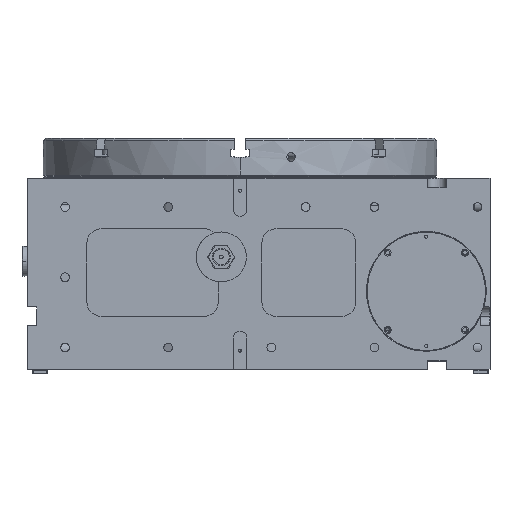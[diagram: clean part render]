
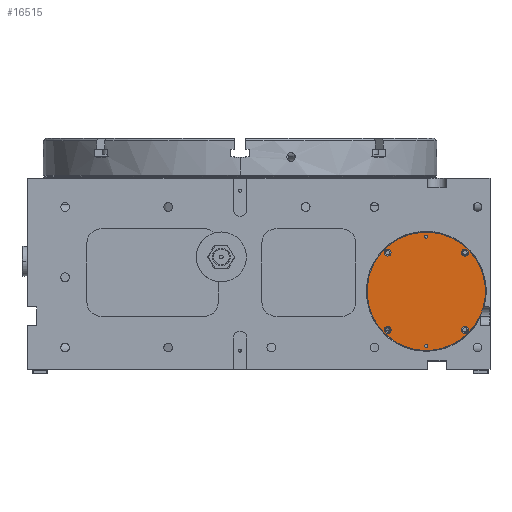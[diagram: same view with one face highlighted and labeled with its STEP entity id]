
A CAD part, front view. The second image highlights one B-rep face of the part: STEP entity #16515.
In plain terms, the highlighted planar face has unit normal (0, -1, 0).
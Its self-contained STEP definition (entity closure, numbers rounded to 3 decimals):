
#7 = VERTEX_POINT ( 'NONE', #22269 ) ;
#55 = CARTESIAN_POINT ( 'NONE',  ( 232.239, -399., 190.761 ) ) ;
#399 = CIRCLE ( 'NONE', #27295, 5.5 ) ;
#599 = VERTEX_POINT ( 'NONE', #27605 ) ;
#790 = CARTESIAN_POINT ( 'NONE',  ( 240.017, -399., 182.983 ) ) ;
#944 = DIRECTION ( 'NONE',  ( 0.707, 0., 0.707 ) ) ;
#1582 = CARTESIAN_POINT ( 'NONE',  ( 236.128, -399., 186.872 ) ) ;
#1607 = EDGE_CURVE ( 'NONE', #1667, #21554, #3862, .T. ) ;
#1667 = VERTEX_POINT ( 'NONE', #55 ) ;
#1748 = AXIS2_PLACEMENT_3D ( 'NONE', #2646, #30628, #30953 ) ;
#2611 = VERTEX_POINT ( 'NONE', #12391 ) ;
#2646 = CARTESIAN_POINT ( 'NONE',  ( 359.872, -399., 186.872 ) ) ;
#2670 = VERTEX_POINT ( 'NONE', #14752 ) ;
#2965 = DIRECTION ( 'NONE',  ( 0., -1., 0. ) ) ;
#3174 = CARTESIAN_POINT ( 'NONE',  ( 359.872, -399., 63.128 ) ) ;
#3281 = CIRCLE ( 'NONE', #19988, 5.5 ) ;
#3862 = CIRCLE ( 'NONE', #28081, 5.5 ) ;
#4068 = CARTESIAN_POINT ( 'NONE',  ( 231.002, -399., 191.998 ) ) ;
#4385 = EDGE_LOOP ( 'NONE', ( #18349, #13337 ) ) ;
#4401 = FACE_BOUND ( 'NONE', #12310, .T. ) ;
#4606 = CARTESIAN_POINT ( 'NONE',  ( 364.998, -399., 58.002 ) ) ;
#4866 = ORIENTED_EDGE ( 'NONE', *, *, #8707, .F. ) ;
#5194 = EDGE_CURVE ( 'NONE', #5712, #18607, #22804, .T. ) ;
#5606 = AXIS2_PLACEMENT_3D ( 'NONE', #1582, #32884, #22618 ) ;
#5712 = VERTEX_POINT ( 'NONE', #7643 ) ;
#6367 = DIRECTION ( 'NONE',  ( 0., -1., 0. ) ) ;
#6582 = PLANE ( 'NONE',  #18686 ) ;
#6687 = CARTESIAN_POINT ( 'NONE',  ( 298., -399., 37.5 ) ) ;
#6702 = DIRECTION ( 'NONE',  ( 0., -1., 0. ) ) ;
#7643 = CARTESIAN_POINT ( 'NONE',  ( 296.232, -399., 214.268 ) ) ;
#7737 = EDGE_LOOP ( 'NONE', ( #8976, #23264 ) ) ;
#8047 = EDGE_CURVE ( 'NONE', #7, #2611, #10361, .T. ) ;
#8356 = DIRECTION ( 'NONE',  ( 0., -1., 0. ) ) ;
#8707 = EDGE_CURVE ( 'NONE', #2670, #13331, #29832, .T. ) ;
#8886 = DIRECTION ( 'NONE',  ( -0.707, 0., 0.707 ) ) ;
#8976 = ORIENTED_EDGE ( 'NONE', *, *, #17955, .F. ) ;
#9011 = DIRECTION ( 'NONE',  ( 0., -1., 0. ) ) ;
#9096 = CARTESIAN_POINT ( 'NONE',  ( 296.232, -399., 39.268 ) ) ;
#9398 = AXIS2_PLACEMENT_3D ( 'NONE', #10890, #2965, #944 ) ;
#9433 = EDGE_CURVE ( 'NONE', #9988, #599, #24496, .T. ) ;
#9632 = DIRECTION ( 'NONE',  ( 0.707, 0., -0.707 ) ) ;
#9857 = EDGE_CURVE ( 'NONE', #2611, #7, #14302, .T. ) ;
#9988 = VERTEX_POINT ( 'NONE', #22017 ) ;
#10021 = DIRECTION ( 'NONE',  ( 0.707, 0., -0.707 ) ) ;
#10361 = CIRCLE ( 'NONE', #1748, 5.5 ) ;
#10499 = VERTEX_POINT ( 'NONE', #12204 ) ;
#10644 = VERTEX_POINT ( 'NONE', #4606 ) ;
#10878 = AXIS2_PLACEMENT_3D ( 'NONE', #26482, #31540, #16209 ) ;
#10890 = CARTESIAN_POINT ( 'NONE',  ( 236.128, -399., 63.128 ) ) ;
#11074 = DIRECTION ( 'NONE',  ( -0.707, 0., -0.707 ) ) ;
#11212 = ORIENTED_EDGE ( 'NONE', *, *, #19173, .F. ) ;
#11293 = DIRECTION ( 'NONE',  ( -0.707, 0., 0.707 ) ) ;
#11931 = DIRECTION ( 'NONE',  ( 0.707, 0., -0.707 ) ) ;
#12204 = CARTESIAN_POINT ( 'NONE',  ( 299.768, -399., 35.732 ) ) ;
#12310 = EDGE_LOOP ( 'NONE', ( #25522, #11212 ) ) ;
#12391 = CARTESIAN_POINT ( 'NONE',  ( 355.983, -399., 182.983 ) ) ;
#12670 = EDGE_LOOP ( 'NONE', ( #15993, #30014 ) ) ;
#13331 = VERTEX_POINT ( 'NONE', #23353 ) ;
#13337 = ORIENTED_EDGE ( 'NONE', *, *, #5194, .F. ) ;
#13347 = ORIENTED_EDGE ( 'NONE', *, *, #9857, .F. ) ;
#14036 = ORIENTED_EDGE ( 'NONE', *, *, #8047, .F. ) ;
#14119 = DIRECTION ( 'NONE',  ( -0.707, 0., 0.707 ) ) ;
#14302 = CIRCLE ( 'NONE', #31498, 5.5 ) ;
#14681 = FACE_BOUND ( 'NONE', #4385, .T. ) ;
#14752 = CARTESIAN_POINT ( 'NONE',  ( 240.017, -399., 67.017 ) ) ;
#14934 = DIRECTION ( 'NONE',  ( 0., -1., 0. ) ) ;
#15012 = FACE_BOUND ( 'NONE', #12670, .T. ) ;
#15068 = DIRECTION ( 'NONE',  ( 0., -1., 0. ) ) ;
#15102 = AXIS2_PLACEMENT_3D ( 'NONE', #23287, #21272, #16206 ) ;
#15993 = ORIENTED_EDGE ( 'NONE', *, *, #9433, .F. ) ;
#16206 = DIRECTION ( 'NONE',  ( -0.707, 0., 0.707 ) ) ;
#16209 = DIRECTION ( 'NONE',  ( -0.707, 0., 0.707 ) ) ;
#16515 = ADVANCED_FACE ( 'NONE', ( #4401, #14681, #29672, #15012, #22433, #30343, #27817 ), #6582, .T. ) ;
#16934 = CIRCLE ( 'NONE', #5606, 5.5 ) ;
#17855 = ORIENTED_EDGE ( 'NONE', *, *, #33087, .F. ) ;
#17955 = EDGE_CURVE ( 'NONE', #19738, #10644, #28555, .T. ) ;
#18349 = ORIENTED_EDGE ( 'NONE', *, *, #18975, .F. ) ;
#18451 = EDGE_CURVE ( 'NONE', #10644, #19738, #26432, .T. ) ;
#18468 = AXIS2_PLACEMENT_3D ( 'NONE', #6687, #14934, #30118 ) ;
#18607 = VERTEX_POINT ( 'NONE', #19676 ) ;
#18686 = AXIS2_PLACEMENT_3D ( 'NONE', #4068, #32703, #9632 ) ;
#18975 = EDGE_CURVE ( 'NONE', #18607, #5712, #26446, .T. ) ;
#19040 = AXIS2_PLACEMENT_3D ( 'NONE', #32807, #6702, #11931 ) ;
#19173 = EDGE_CURVE ( 'NONE', #10499, #22884, #24872, .T. ) ;
#19676 = CARTESIAN_POINT ( 'NONE',  ( 299.768, -399., 210.732 ) ) ;
#19738 = VERTEX_POINT ( 'NONE', #29479 ) ;
#19988 = AXIS2_PLACEMENT_3D ( 'NONE', #30999, #25938, #11293 ) ;
#21272 = DIRECTION ( 'NONE',  ( 0., 1., 0. ) ) ;
#21554 = VERTEX_POINT ( 'NONE', #790 ) ;
#21607 = AXIS2_PLACEMENT_3D ( 'NONE', #21820, #9011, #27372 ) ;
#21820 = CARTESIAN_POINT ( 'NONE',  ( 298., -399., 212.5 ) ) ;
#22017 = CARTESIAN_POINT ( 'NONE',  ( 355.983, -399., 67.017 ) ) ;
#22269 = CARTESIAN_POINT ( 'NONE',  ( 363.761, -399., 190.761 ) ) ;
#22433 = FACE_BOUND ( 'NONE', #24431, .T. ) ;
#22618 = DIRECTION ( 'NONE',  ( 0.707, 0., -0.707 ) ) ;
#22779 = EDGE_LOOP ( 'NONE', ( #4866, #17855 ) ) ;
#22804 = CIRCLE ( 'NONE', #19040, 2.5 ) ;
#22884 = VERTEX_POINT ( 'NONE', #9096 ) ;
#22949 = ORIENTED_EDGE ( 'NONE', *, *, #1607, .F. ) ;
#22953 = CARTESIAN_POINT ( 'NONE',  ( 236.128, -399., 63.128 ) ) ;
#22980 = CARTESIAN_POINT ( 'NONE',  ( 236.128, -399., 186.872 ) ) ;
#23264 = ORIENTED_EDGE ( 'NONE', *, *, #18451, .F. ) ;
#23287 = CARTESIAN_POINT ( 'NONE',  ( 298., -399., 125. ) ) ;
#23353 = CARTESIAN_POINT ( 'NONE',  ( 232.239, -399., 59.239 ) ) ;
#23424 = AXIS2_PLACEMENT_3D ( 'NONE', #3174, #6367, #14119 ) ;
#24431 = EDGE_LOOP ( 'NONE', ( #13347, #14036 ) ) ;
#24452 = EDGE_CURVE ( 'NONE', #22884, #10499, #30834, .T. ) ;
#24496 = CIRCLE ( 'NONE', #23424, 5.5 ) ;
#24872 = CIRCLE ( 'NONE', #10878, 2.5 ) ;
#25306 = DIRECTION ( 'NONE',  ( 0.707, 0., 0.707 ) ) ;
#25522 = ORIENTED_EDGE ( 'NONE', *, *, #24452, .F. ) ;
#25938 = DIRECTION ( 'NONE',  ( 0., -1., 0. ) ) ;
#26432 = CIRCLE ( 'NONE', #30193, 94.75 ) ;
#26446 = CIRCLE ( 'NONE', #21607, 2.5 ) ;
#26482 = CARTESIAN_POINT ( 'NONE',  ( 298., -399., 37.5 ) ) ;
#27295 = AXIS2_PLACEMENT_3D ( 'NONE', #22953, #28007, #25306 ) ;
#27372 = DIRECTION ( 'NONE',  ( 0.707, 0., -0.707 ) ) ;
#27605 = CARTESIAN_POINT ( 'NONE',  ( 363.761, -399., 59.239 ) ) ;
#27807 = EDGE_LOOP ( 'NONE', ( #27967, #22949 ) ) ;
#27817 = FACE_OUTER_BOUND ( 'NONE', #7737, .T. ) ;
#27949 = EDGE_CURVE ( 'NONE', #21554, #1667, #16934, .T. ) ;
#27967 = ORIENTED_EDGE ( 'NONE', *, *, #27949, .F. ) ;
#28007 = DIRECTION ( 'NONE',  ( 0., -1., 0. ) ) ;
#28081 = AXIS2_PLACEMENT_3D ( 'NONE', #22980, #15068, #10021 ) ;
#28555 = CIRCLE ( 'NONE', #15102, 94.75 ) ;
#29269 = DIRECTION ( 'NONE',  ( 0., 1., 0. ) ) ;
#29417 = CARTESIAN_POINT ( 'NONE',  ( 359.872, -399., 186.872 ) ) ;
#29479 = CARTESIAN_POINT ( 'NONE',  ( 231.002, -399., 191.998 ) ) ;
#29672 = FACE_BOUND ( 'NONE', #22779, .T. ) ;
#29832 = CIRCLE ( 'NONE', #9398, 5.5 ) ;
#29851 = EDGE_CURVE ( 'NONE', #599, #9988, #3281, .T. ) ;
#30014 = ORIENTED_EDGE ( 'NONE', *, *, #29851, .F. ) ;
#30118 = DIRECTION ( 'NONE',  ( -0.707, 0., 0.707 ) ) ;
#30193 = AXIS2_PLACEMENT_3D ( 'NONE', #31964, #29269, #8886 ) ;
#30343 = FACE_BOUND ( 'NONE', #27807, .T. ) ;
#30628 = DIRECTION ( 'NONE',  ( 0., -1., 0. ) ) ;
#30834 = CIRCLE ( 'NONE', #18468, 2.5 ) ;
#30953 = DIRECTION ( 'NONE',  ( -0.707, 0., -0.707 ) ) ;
#30999 = CARTESIAN_POINT ( 'NONE',  ( 359.872, -399., 63.128 ) ) ;
#31498 = AXIS2_PLACEMENT_3D ( 'NONE', #29417, #8356, #11074 ) ;
#31540 = DIRECTION ( 'NONE',  ( 0., -1., 0. ) ) ;
#31964 = CARTESIAN_POINT ( 'NONE',  ( 298., -399., 125. ) ) ;
#32703 = DIRECTION ( 'NONE',  ( 0., -1., 0. ) ) ;
#32807 = CARTESIAN_POINT ( 'NONE',  ( 298., -399., 212.5 ) ) ;
#32884 = DIRECTION ( 'NONE',  ( 0., -1., 0. ) ) ;
#33087 = EDGE_CURVE ( 'NONE', #13331, #2670, #399, .T. ) ;
